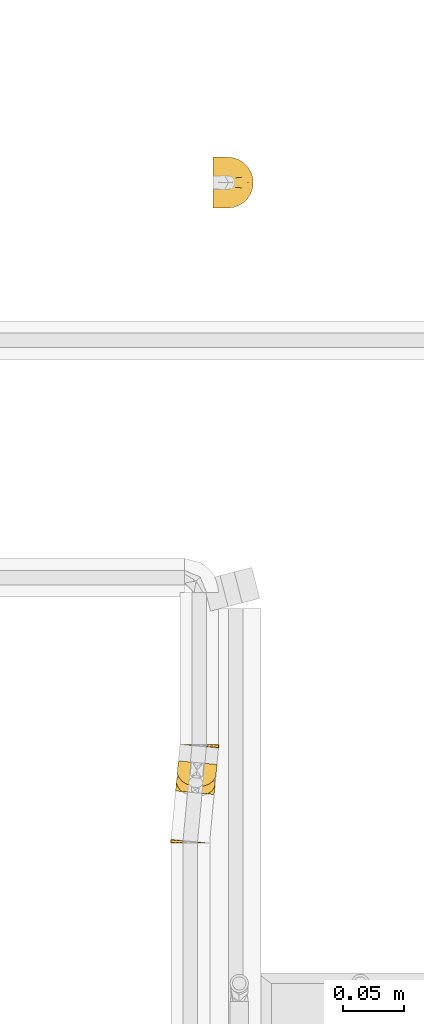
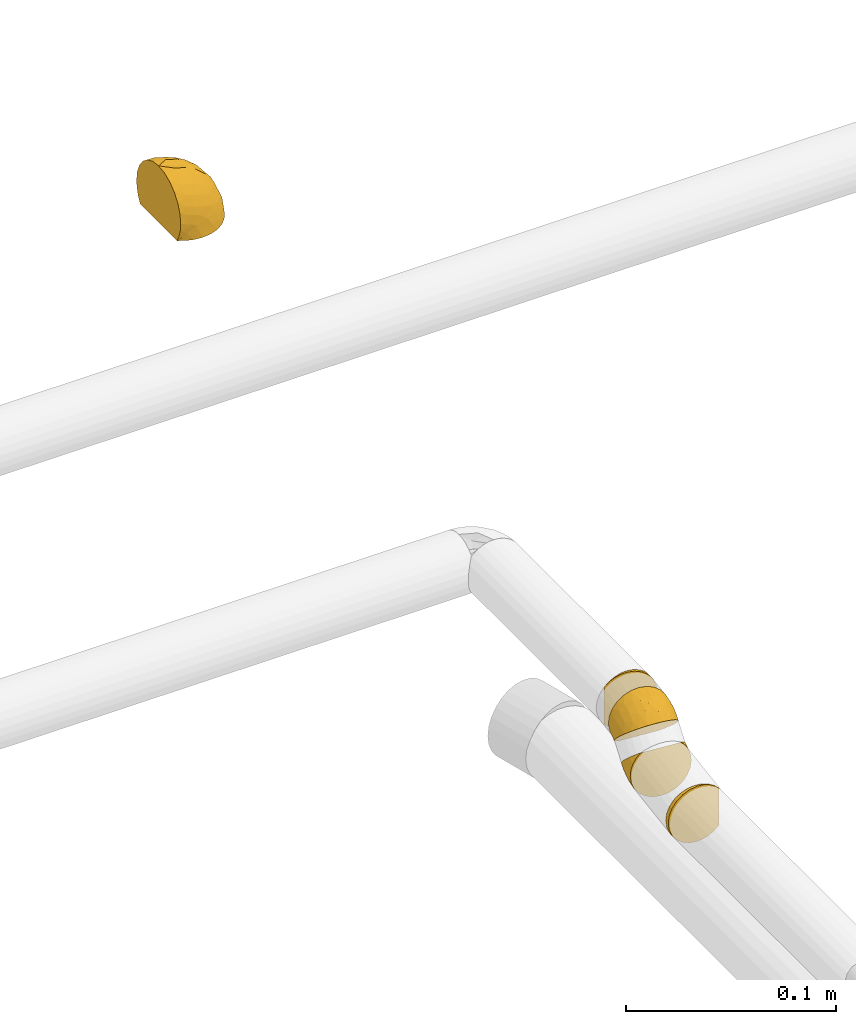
# One storey, part 19 of 108: 5 coverings.
"""IFC2X3 building model written with IfcOpenShell, lengths in millimetres."""

from ifc_helpers import new_model, entity, si_unit, converted_unit, derived_unit, direction, frame, origin_with_axes, place, context, subcontext, project, spatial, open_shell, surface_model, source, transform, mapped, element, save


model = new_model("IFC2X3")

# Units and contexts
model_context = context("Model", 3, precision=0.01, world=frame((0.0, 4.29681676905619e-09, 0.0)), true_north=direction((4.01073788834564e-13, 1.0)))
plan_context = context("Plan", 3, precision=0.01, world=frame((0.0, 4.29681676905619e-09, 0.0)), true_north=direction((4.01073788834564e-13, 1.0)))
body_context = subcontext(model_context, "Body", "Model", "MODEL_VIEW")
ifc_project = project(units=[converted_unit("PLANEANGLEUNIT", "DEGREE", entity("IfcPositiveLengthMeasure", 0.0174532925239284), si_unit("PLANEANGLEUNIT", "RADIAN"), dimensions=[0, 0, 0, 0, 0, 0, 0]), si_unit("AREAUNIT", "SQUARE_METRE"), si_unit("LENGTHUNIT", "METRE", prefix="MILLI"), si_unit("MASSUNIT", "GRAM", prefix="KILO"), si_unit("POWERUNIT", "WATT"), si_unit("PRESSUREUNIT", "PASCAL", prefix="KILO"), si_unit("FORCEUNIT", "NEWTON", prefix="KILO"), si_unit("ELECTRICVOLTAGEUNIT", "VOLT"), si_unit("ELECTRICCURRENTUNIT", "AMPERE"), si_unit("THERMODYNAMICTEMPERATUREUNIT", "DEGREE_CELSIUS"), si_unit("TIMEUNIT", "SECOND"), si_unit("VOLUMEUNIT", "CUBIC_METRE"), derived_unit("LINEARVELOCITYUNIT", [(si_unit("LENGTHUNIT", "METRE"), 1), (si_unit("TIMEUNIT", "SECOND"), -1)]), derived_unit("VOLUMETRICFLOWRATEUNIT", [(si_unit("VOLUMEUNIT", "CUBIC_METRE"), 1), (si_unit("TIMEUNIT", "SECOND"), -1)]), derived_unit("THERMALTRANSMITTANCEUNIT", [(si_unit("POWERUNIT", "WATT"), 1), (si_unit("THERMODYNAMICTEMPERATUREUNIT", "KELVIN"), -1), (si_unit("AREAUNIT", "SQUARE_METRE"), -1)]), derived_unit("SOUNDPRESSUREUNIT", [(si_unit("PRESSUREUNIT", "PASCAL"), 1)])], contexts=[model_context, plan_context])

# Site, building, storey
site_placement = place(None, frame((0.0, -4.29681676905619e-09, 0.0), z_axis=(0.0, 0.0, 1.0), x_axis=(1.0, 0.0, 0.0)))
site = spatial("IfcSite", under=ifc_project, at=site_placement, CompositionType="ELEMENT")
building_placement = place(site_placement, frame((0.0, 4.29681676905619e-09, 0.0), z_axis=(0.0, 0.0, 1.0), x_axis=(1.0, 0.0, 0.0)))
building = spatial("IfcBuilding", under=site, at=building_placement, Name="mc-building", CompositionType="ELEMENT")
storey_placement = place(building_placement, frame((0.0, 0.0, 210200.0), z_axis=(0.0, 0.0, 1.0), x_axis=(1.0, 0.0, 0.0)))
storey = spatial("IfcBuildingStorey", under=building, at=storey_placement, Name="Nivå F - 0,7 m", CompositionType="ELEMENT", Elevation=210200.0)

# Coverings
shared_shape_1 = source(origin_with_axes(), body_context, "Body", "SurfaceModel", [
    surface_model("IfcShellBasedSurfaceModel", [(-0.56127, 11.89357, -10.70247), (-0.56127, 9.40752, -12.94213), (-0.56127, 6.51001, -14.61574), (-0.56127, 3.32778, -15.65011), (-0.56127, 0.0, -16.0), (-0.56127, 3.32778, 15.65011), (-0.56127, -8.0, 13.85641), (-0.56127, 9.40752, 12.94213), (-0.56127, 11.89357, 10.70247), (-0.56127, 6.51001, 14.61574), (-0.56127, -4.1411, 15.45481), (-0.56127, 0.0, 16.0), (-0.56127, -4.1411, -15.45481), (-0.56127, -8.0, -13.85641), (-0.56127, -13.85641, -8.0), (-0.56127, -11.31371, -11.31371), (-0.56127, -15.45481, 4.1411), (-0.56127, -15.45481, -4.1411), (-0.56127, -13.85641, 8.0), (-0.56127, -11.31371, 11.31371), (-0.56127, -16.0, 0.0), (-0.31929, 9.41883, -12.94213), (-0.55134, 11.89404, -10.70247), (0.2482, 3.36564, 15.65011), (0.55882, 0.05239, -16.0), (0.2482, 3.36564, -15.65011), (-0.04883, 6.53398, -14.61574), (1.85219, -13.74352, -8.0), (-0.04883, 6.53398, 14.61574), (-0.55134, 11.89404, 10.70247), (-0.31929, 9.41883, 12.94213), (0.55882, 0.05239, 16.0), (0.94535, -4.07064, -15.45481), (1.30554, -7.91268, -13.85641), (1.85219, -13.74352, 8.0), (1.61485, -11.21193, -11.31371), (2.00138, -15.33495, -4.1411), (2.00138, -15.33495, 4.1411), (1.61485, -11.21193, 11.31371), (1.30554, -7.91268, 13.85641), (0.94535, -4.07064, 15.45481), (2.05227, -15.87776, 0.0), (-0.00061, 0.0131, -16.0), (0.74693, -15.96942, 0.0), (-0.00061, 0.0131, 16.0)], [open_shell([[[0, 1, 2]], [[2, 3, 4]], [[2, 4, 0]], [[5, 0, 6]], [[7, 8, 9]], [[0, 9, 8]], [[0, 5, 9]], [[5, 10, 11]], [[6, 0, 4]], [[12, 13, 14]], [[12, 14, 6]], [[14, 13, 15]], [[16, 14, 17]], [[6, 18, 19]], [[10, 5, 6]], [[14, 16, 18]], [[6, 14, 18]], [[20, 16, 17]], [[6, 4, 12]], [[21, 22, 23]], [[24, 25, 26]], [[21, 24, 26]], [[23, 27, 21]], [[28, 29, 30]], [[29, 28, 22]], [[28, 23, 22]], [[31, 27, 23]], [[32, 24, 21]], [[27, 33, 32]], [[27, 31, 34]], [[35, 33, 27]], [[36, 27, 37]], [[38, 34, 39]], [[39, 31, 40]], [[34, 37, 27]], [[39, 34, 31]], [[36, 37, 41]], [[27, 32, 21]], [[26, 3, 2]], [[4, 3, 42]], [[25, 42, 3]], [[2, 1, 21]], [[21, 26, 2]], [[24, 42, 25]], [[3, 26, 25]], [[22, 21, 1]], [[12, 4, 42]], [[15, 13, 35]], [[12, 33, 13]], [[17, 14, 27]], [[14, 15, 35]], [[20, 17, 43]], [[32, 12, 42]], [[27, 14, 35]], [[32, 33, 12]], [[35, 13, 33]], [[17, 36, 43]], [[17, 27, 36]], [[36, 41, 43]], [[32, 42, 24]], [[18, 38, 19]], [[19, 38, 6]], [[34, 18, 16]], [[11, 10, 44]], [[10, 40, 44]], [[6, 39, 10]], [[16, 20, 43]], [[34, 38, 18]], [[16, 37, 34]], [[41, 37, 43]], [[39, 6, 38]], [[44, 40, 31]], [[10, 39, 40]], [[16, 43, 37]], [[9, 5, 23]], [[28, 7, 9]], [[8, 7, 30]], [[11, 44, 5]], [[44, 31, 23]], [[30, 7, 28]], [[9, 23, 28]], [[5, 44, 23]]])]),
])
covering_1_placement = place(storey_placement, frame((339126.94674, 460968.75941, -735.809999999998), z_axis=(0.0, 0.0, 1.0), x_axis=(0.0933410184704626, 0.995634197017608, 0.0)))
element("IfcCovering", 1, at=covering_1_placement, inside=storey, Name="BI10T - Cellegummi 18-32 mm kalde rør", PredefinedType="INSULATION", context=body_context, shape_type="MappedRepresentation", body=[
    mapped(shared_shape_1, transform((0.0, 0.0, 0.0), scale=1.0)),
])
shared_shape_2 = source(origin_with_axes(), body_context, "Body", "SurfaceModel", [
    surface_model("IfcShellBasedSurfaceModel", [(-4.97056, 11.89357, -10.70247), (-4.97056, 9.40752, -12.94213), (-4.97056, 0.0, -16.0), (-4.97056, 6.51001, -14.61574), (-4.97056, 3.32778, -15.65011), (-4.97056, 0.0, 16.0), (-4.97056, 9.40752, 12.94213), (-4.97056, 11.89357, 10.70247), (-4.97056, 6.51001, 14.61574), (-4.97056, 3.32778, 15.65011), (-4.97056, -15.45481, -4.1411), (-4.97056, -4.1411, -15.45481), (-4.97056, -8.0, -13.85641), (-4.97056, -13.85641, -8.0), (-4.97056, -11.31371, -11.31371), (-4.97056, -13.85641, 8.0), (-4.97056, -8.0, 13.85641), (-4.97056, -11.31371, 11.31371), (-4.97056, -4.1411, 15.45481), (-4.97056, -16.0, 0.0), (-4.97056, -15.45481, 4.1411), (-3.1374, 10.16684, -12.94213), (-4.89531, 11.92474, -10.70247), (-4.89531, 11.92474, 10.70247), (3.51472, 3.51472, -16.0), (1.16163, 5.86781, -15.65011), (-1.08855, 8.11799, -14.61574), (-1.08855, 8.11799, 14.61574), (-3.1374, 10.16684, 12.94213), (1.16163, 5.86781, 15.65011), (3.51472, 3.51472, 16.0), (6.44292, 0.58652, -15.45481), (13.31268, -6.28324, -8.0), (9.17157, -2.14214, -13.85641), (14.44292, -7.41348, -4.1411), (11.51472, -4.48528, -11.31371), (13.31268, -6.28324, 8.0), (11.51472, -4.48528, 11.31371), (9.17157, -2.14214, 13.85641), (6.44292, 0.58652, 15.45481), (14.44292, -7.41348, 4.1411), (14.82843, -7.79899, 0.0), (-0.37836, 0.91345, -16.0), (3.21879, -14.48307, -2.97827), (1.96115, -13.8695, -6.12293), (8.42584, -12.25536, -3.0379), (0.31187, -9.08866, -12.69365), (-0.52437, -2.37827, -15.7066), (2.87541, -0.86951, -15.7022), (1.59788, -4.89072, -14.78207), (5.89953, -6.82755, -12.69365), (-2.54867, 0.48174, -16.0), (4.47929, -10.81396, -9.74018), (-0.68256, -12.3185, -9.74018), (9.19314, -8.22786, -9.74018), (8.79818, -10.97175, -6.12293), (0.68053, -14.87593, 0.0), (5.74457, -13.86863, 0.0), (5.30977, -3.25768, -14.66516), (-1.87699, -5.17679, -15.04205), (10.03767, -11.00007, 0.0), (1.56818, 2.21408, -16.0), (10.5388, -10.92885, 3.17594), (3.21879, -14.48307, 2.97827), (-0.68256, -12.3185, 9.74018), (1.96115, -13.8695, 6.12293), (4.47929, -10.81396, 9.74018), (0.31187, -9.08866, 12.69365), (9.19314, -8.22786, 9.74018), (1.59788, -4.89072, 14.78207), (-0.52437, -2.37827, 15.7066), (-1.87699, -5.17679, 15.04205), (5.89953, -6.82755, 12.69365), (5.30977, -3.25768, 14.66516), (2.87541, -0.86951, 15.7022), (8.79818, -10.97175, 6.12293), (-0.37836, 0.91345, 16.0), (-2.54867, 0.48174, 16.0), (1.56818, 2.21408, 16.0), (-4.31116, 11.27246, 11.50809)], [open_shell([[[0, 1, 2]], [[3, 4, 2]], [[3, 2, 1]], [[0, 2, 5]], [[6, 7, 8]], [[8, 5, 9]], [[5, 8, 7]], [[7, 0, 5]], [[2, 10, 5]], [[11, 12, 13]], [[13, 10, 11]], [[13, 12, 14]], [[10, 15, 5]], [[16, 15, 17]], [[15, 16, 18]], [[15, 19, 20]], [[18, 5, 15]], [[10, 19, 15]], [[2, 11, 10]], [[21, 22, 23]], [[24, 25, 26]], [[21, 24, 26]], [[24, 21, 23]], [[27, 23, 28]], [[29, 30, 27]], [[23, 27, 30]], [[30, 24, 23]], [[30, 31, 24]], [[32, 33, 31]], [[31, 34, 32]], [[35, 33, 32]], [[30, 36, 34]], [[37, 36, 38]], [[39, 38, 36]], [[40, 41, 36]], [[36, 30, 39]], [[36, 41, 34]], [[34, 31, 30]], [[25, 4, 3]], [[2, 4, 42]], [[25, 42, 4]], [[3, 1, 26]], [[21, 26, 1]], [[24, 42, 25]], [[3, 26, 25]], [[22, 21, 1]], [[43, 44, 45]], [[46, 14, 12]], [[47, 48, 49]], [[50, 46, 49]], [[47, 11, 51]], [[52, 53, 46]], [[43, 10, 44]], [[54, 55, 52]], [[13, 53, 44]], [[13, 44, 10]], [[35, 32, 54]], [[52, 55, 44]], [[42, 47, 51]], [[56, 43, 57]], [[50, 35, 54]], [[48, 58, 49]], [[46, 12, 59]], [[31, 48, 24]], [[52, 46, 50]], [[58, 50, 49]], [[32, 34, 55]], [[13, 14, 53]], [[43, 45, 57]], [[50, 33, 35]], [[10, 43, 56]], [[34, 60, 45]], [[45, 44, 55]], [[11, 47, 59]], [[34, 41, 60]], [[56, 19, 10]], [[11, 2, 51]], [[48, 47, 42]], [[47, 49, 59]], [[48, 42, 61]], [[31, 33, 58]], [[46, 59, 49]], [[12, 11, 59]], [[46, 53, 14]], [[44, 53, 52]], [[55, 54, 32]], [[50, 54, 52]], [[31, 58, 48]], [[50, 58, 33]], [[34, 45, 55]], [[57, 45, 60]], [[24, 48, 61]], [[62, 57, 60]], [[57, 63, 56]], [[15, 64, 17]], [[65, 66, 64]], [[67, 17, 64]], [[36, 37, 68]], [[69, 70, 71]], [[69, 67, 72]], [[67, 66, 72]], [[73, 39, 74]], [[71, 67, 69]], [[18, 71, 70]], [[75, 40, 36]], [[62, 41, 40]], [[66, 68, 72]], [[15, 20, 65]], [[16, 17, 67]], [[65, 75, 66]], [[37, 38, 72]], [[20, 56, 63]], [[74, 76, 70]], [[18, 70, 77]], [[74, 30, 78]], [[75, 65, 63]], [[73, 72, 38]], [[75, 36, 68]], [[75, 62, 40]], [[77, 70, 76]], [[20, 63, 65]], [[20, 19, 56]], [[62, 63, 57]], [[77, 5, 18]], [[69, 73, 74]], [[69, 74, 70]], [[30, 74, 39]], [[18, 16, 71]], [[67, 71, 16]], [[65, 64, 15]], [[67, 64, 66]], [[72, 68, 37]], [[75, 68, 66]], [[72, 73, 69]], [[39, 73, 38]], [[63, 62, 75]], [[41, 62, 60]], [[78, 76, 74]], [[8, 9, 27]], [[28, 6, 8]], [[7, 6, 79]], [[5, 76, 9]], [[76, 30, 29]], [[28, 8, 27]], [[9, 29, 27]], [[9, 76, 29]], [[6, 28, 79]]])]),
])
covering_2_placement = place(storey_placement, frame((339125.13518, 460949.43613, -735.809999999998), z_axis=(0.995634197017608, -0.0933410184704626, 0.0), x_axis=(-0.0933410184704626, -0.995634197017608, 0.0)))
element("IfcCovering", 2, at=covering_2_placement, inside=storey, Name="BI10T - Cellegummi 18-32 mm kalde rør", PredefinedType="INSULATION", context=body_context, shape_type="MappedRepresentation", body=[
    mapped(shared_shape_2, transform((0.0, 0.0, 0.0), scale=1.0)),
])
shared_shape_3 = source(origin_with_axes(), body_context, "Body", "SurfaceModel", [
    surface_model("IfcShellBasedSurfaceModel", [(-4.97056, 9.40752, 12.94213), (-4.97056, 11.89357, 10.70247), (-4.97056, 6.51001, 14.61574), (-4.97056, 11.89357, -10.70247), (-4.97056, 0.0, 16.0), (-4.97056, -4.1411, -15.45481), (-4.97056, -8.0, -13.85641), (-4.97056, -13.85641, -8.0), (-4.97056, -15.45481, -4.1411), (-4.97056, -11.31371, -11.31371), (-1.08855, 8.11799, 14.61574), (-4.89531, 11.92474, 10.70247), (-3.1374, 10.16684, 12.94213), (13.31268, -6.28324, -8.0), (9.17157, -2.14214, -13.85641), (6.44292, 0.58652, -15.45481), (14.44292, -7.41348, -4.1411), (11.51472, -4.48528, -11.31371), (1.16163, 5.86781, -15.65011), (-4.97056, 3.32778, -15.65011), (-4.97056, 6.51001, -14.61574), (-4.97056, 0.0, -16.0), (-0.37836, 0.91345, -16.0), (-4.97056, 9.40752, -12.94213), (-1.08855, 8.11799, -14.61574), (-3.1374, 10.16684, -12.94213), (3.51472, 3.51472, -16.0), (-4.89531, 11.92474, -10.70247), (3.21879, -14.48307, -2.97827), (1.96115, -13.8695, -6.12293), (8.42584, -12.25536, -3.0379), (0.31187, -9.08866, -12.69365), (-0.52437, -2.37827, -15.7066), (2.87541, -0.86951, -15.7022), (1.59788, -4.89072, -14.78207), (5.89953, -6.82755, -12.69365), (-2.54867, 0.48174, -16.0), (4.47929, -10.81396, -9.74018), (-0.68256, -12.3185, -9.74018), (9.19314, -8.22786, -9.74018), (8.79818, -10.97175, -6.12293), (0.68053, -14.87593, 0.0), (5.74457, -13.86863, 0.0), (5.30977, -3.25768, -14.66516), (-1.87699, -5.17679, -15.04205), (10.03767, -11.00007, 0.0), (14.82843, -7.79899, 0.0), (-4.97056, -16.0, 0.0), (1.56818, 2.21408, -16.0), (10.5388, -10.92885, 3.17594), (3.21879, -14.48307, 2.97827), (-4.97056, -13.85641, 8.0), (-0.68256, -12.3185, 9.74018), (-4.97056, -11.31371, 11.31371), (1.96115, -13.8695, 6.12293), (4.47929, -10.81396, 9.74018), (0.31187, -9.08866, 12.69365), (13.31268, -6.28324, 8.0), (11.51472, -4.48528, 11.31371), (9.19314, -8.22786, 9.74018), (1.59788, -4.89072, 14.78207), (-0.52437, -2.37827, 15.7066), (-1.87699, -5.17679, 15.04205), (5.89953, -6.82755, 12.69365), (5.30977, -3.25768, 14.66516), (6.44292, 0.58652, 15.45481), (2.87541, -0.86951, 15.7022), (-4.97056, -4.1411, 15.45481), (8.79818, -10.97175, 6.12293), (14.44292, -7.41348, 4.1411), (-4.97056, -15.45481, 4.1411), (-4.97056, -8.0, 13.85641), (9.17157, -2.14214, 13.85641), (-0.37836, 0.91345, 16.0), (-2.54867, 0.48174, 16.0), (3.51472, 3.51472, 16.0), (1.56818, 2.21408, 16.0), (-4.97056, 3.32778, 15.65011), (-4.31116, 11.27246, 11.50809), (1.16163, 5.86781, 15.65011)], [open_shell([[[0, 1, 2]], [[1, 3, 4]], [[5, 6, 7]], [[7, 8, 5]], [[7, 6, 9]], [[10, 11, 12]], [[13, 14, 15]], [[15, 16, 13]], [[17, 14, 13]], [[18, 19, 20]], [[21, 19, 22]], [[18, 22, 19]], [[20, 23, 24]], [[25, 24, 23]], [[26, 22, 18]], [[20, 24, 18]], [[27, 25, 23]], [[28, 29, 30]], [[31, 9, 6]], [[32, 33, 34]], [[35, 31, 34]], [[32, 5, 36]], [[37, 38, 31]], [[28, 8, 29]], [[39, 40, 37]], [[7, 38, 29]], [[7, 29, 8]], [[17, 13, 39]], [[37, 40, 29]], [[22, 32, 36]], [[41, 28, 42]], [[35, 17, 39]], [[33, 43, 34]], [[31, 6, 44]], [[15, 33, 26]], [[37, 31, 35]], [[43, 35, 34]], [[13, 16, 40]], [[7, 9, 38]], [[28, 30, 42]], [[35, 14, 17]], [[8, 28, 41]], [[16, 45, 30]], [[30, 29, 40]], [[5, 32, 44]], [[16, 46, 45]], [[41, 47, 8]], [[5, 21, 36]], [[33, 32, 22]], [[32, 34, 44]], [[33, 22, 48]], [[15, 14, 43]], [[31, 44, 34]], [[6, 5, 44]], [[31, 38, 9]], [[29, 38, 37]], [[40, 39, 13]], [[35, 39, 37]], [[15, 43, 33]], [[35, 43, 14]], [[16, 30, 40]], [[42, 30, 45]], [[26, 33, 48]], [[49, 42, 45]], [[42, 50, 41]], [[51, 52, 53]], [[54, 55, 52]], [[56, 53, 52]], [[57, 58, 59]], [[60, 61, 62]], [[60, 56, 63]], [[56, 55, 63]], [[64, 65, 66]], [[62, 56, 60]], [[67, 62, 61]], [[68, 69, 57]], [[49, 46, 69]], [[55, 59, 63]], [[51, 70, 54]], [[71, 53, 56]], [[54, 68, 55]], [[58, 72, 63]], [[70, 41, 50]], [[66, 73, 61]], [[67, 61, 74]], [[66, 75, 76]], [[68, 54, 50]], [[64, 63, 72]], [[68, 57, 59]], [[68, 49, 69]], [[74, 61, 73]], [[70, 50, 54]], [[70, 47, 41]], [[49, 50, 42]], [[74, 4, 67]], [[60, 64, 66]], [[60, 66, 61]], [[75, 66, 65]], [[67, 71, 62]], [[56, 62, 71]], [[54, 52, 51]], [[56, 52, 55]], [[63, 59, 58]], [[68, 59, 55]], [[63, 64, 60]], [[65, 64, 72]], [[50, 49, 68]], [[46, 49, 45]], [[76, 73, 66]], [[2, 77, 10]], [[12, 0, 2]], [[1, 0, 78]], [[4, 73, 77]], [[73, 75, 79]], [[12, 2, 10]], [[77, 79, 10]], [[77, 73, 79]], [[0, 12, 78]], [[67, 4, 3]], [[20, 51, 23]], [[53, 3, 23]], [[70, 20, 19]], [[1, 77, 2]], [[77, 1, 4]], [[19, 21, 47]], [[5, 8, 47]], [[53, 71, 3]], [[67, 3, 71]], [[70, 51, 20]], [[53, 23, 51]], [[47, 70, 19]], [[21, 5, 47]], [[27, 75, 65]], [[25, 57, 24]], [[25, 27, 58]], [[18, 24, 69]], [[10, 79, 11]], [[75, 11, 79]], [[75, 27, 11]], [[46, 26, 18]], [[46, 16, 15]], [[27, 72, 58]], [[72, 27, 65]], [[24, 57, 69]], [[57, 25, 58]], [[18, 69, 46]], [[46, 15, 26]]])]),
])
covering_3_placement = place(storey_placement, frame((339123.73851, 460934.53834, -750.773129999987), z_axis=(-0.995634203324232, 0.09334095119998, -6.7565451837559e-08), x_axis=(-0.0660019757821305, -0.704019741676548, -0.707106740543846)))
element("IfcCovering", 3, at=covering_3_placement, inside=storey, Name="BI10T - Cellegummi 18-32 mm kalde rør", PredefinedType="INSULATION", context=body_context, shape_type="MappedRepresentation", body=[
    mapped(shared_shape_3, transform((0.0, 0.0, 0.0), scale=1.0)),
])
shared_shape_4 = source(origin_with_axes(), body_context, "Body", "SurfaceModel", [
    surface_model("IfcShellBasedSurfaceModel", [(-0.56127, -4.1411, -15.45481), (-0.56127, -8.0, -13.85641), (-0.56127, -13.85641, -8.0), (-0.56127, -8.0, 13.85641), (-0.56127, -11.31371, -11.31371), (-0.56127, -15.45481, 4.1411), (-0.56127, -15.45481, -4.1411), (-0.56127, -13.85641, 8.0), (-0.56127, -11.31371, 11.31371), (-0.56127, -16.0, 0.0), (-0.56127, 0.0, -16.0), (1.85219, -13.74352, -8.0), (1.30554, -7.91268, -13.85641), (0.94535, -4.07064, -15.45481), (1.61485, -11.21193, -11.31371), (2.00138, -15.33495, -4.1411), (2.00138, -15.33495, 4.1411), (1.61485, -11.21193, 11.31371), (1.85219, -13.74352, 8.0), (1.30554, -7.91268, 13.85641), (2.05227, -15.87776, 0.0), (-0.04883, 6.53398, -14.61574), (-0.56127, 3.32778, -15.65011), (-0.56127, 6.51001, -14.61574), (-0.00061, 0.0131, -16.0), (0.2482, 3.36564, -15.65011), (-0.56127, 9.40752, -12.94213), (-0.31929, 9.41883, -12.94213), (0.55882, 0.05239, -16.0), (-0.55134, 11.89404, -10.70247), (0.74693, -15.96942, 0.0), (-0.56127, 0.0, 16.0), (-0.56127, -4.1411, 15.45481), (-0.00061, 0.0131, 16.0), (0.94535, -4.07064, 15.45481), (0.55882, 0.05239, 16.0), (-0.56127, 6.51001, 14.61574), (-0.56127, 3.32778, 15.65011), (0.2482, 3.36564, 15.65011), (-0.04883, 6.53398, 14.61574), (-0.56127, 9.40752, 12.94213), (-0.56127, 11.89357, 10.70247), (-0.31929, 9.41883, 12.94213), (-0.56127, 11.89357, -10.70247), (-0.55134, 11.89404, 10.70247)], [open_shell([[[0, 1, 2]], [[0, 2, 3]], [[2, 1, 4]], [[5, 2, 6]], [[3, 7, 8]], [[2, 5, 7]], [[3, 2, 7]], [[9, 5, 6]], [[3, 10, 0]], [[11, 12, 13]], [[14, 12, 11]], [[15, 11, 16]], [[17, 18, 19]], [[18, 16, 11]], [[15, 16, 20]], [[21, 22, 23]], [[10, 22, 24]], [[25, 24, 22]], [[23, 26, 27]], [[27, 21, 23]], [[28, 24, 25]], [[22, 21, 25]], [[29, 27, 26]], [[0, 10, 24]], [[4, 1, 14]], [[0, 12, 1]], [[6, 2, 11]], [[2, 4, 14]], [[9, 6, 30]], [[13, 0, 24]], [[11, 2, 14]], [[13, 12, 0]], [[14, 1, 12]], [[6, 15, 30]], [[6, 11, 15]], [[15, 20, 30]], [[13, 24, 28]], [[7, 17, 8]], [[8, 17, 3]], [[18, 7, 5]], [[31, 32, 33]], [[32, 34, 33]], [[3, 19, 32]], [[5, 9, 30]], [[18, 17, 7]], [[5, 16, 18]], [[20, 16, 30]], [[19, 3, 17]], [[33, 34, 35]], [[32, 19, 34]], [[5, 30, 16]], [[36, 37, 38]], [[39, 40, 36]], [[41, 40, 42]], [[31, 33, 37]], [[33, 35, 38]], [[42, 40, 39]], [[36, 38, 39]], [[37, 33, 38]], [[43, 26, 22]], [[43, 22, 32]], [[22, 26, 23]], [[32, 41, 43]], [[40, 41, 31]], [[40, 37, 36]], [[37, 40, 31]], [[31, 41, 32]], [[3, 22, 10]], [[32, 22, 3]], [[25, 27, 29]], [[34, 25, 29]], [[21, 27, 25]], [[34, 29, 44]], [[35, 44, 42]], [[39, 38, 42]], [[35, 42, 38]], [[34, 44, 35]], [[25, 19, 28]], [[11, 28, 18]], [[19, 25, 34]], [[19, 18, 28]], [[11, 13, 28]]])]),
])
covering_4_placement = place(storey_placement, frame((339119.44674, 460888.75941, -750.773129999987), z_axis=(0.0, 0.0, 1.0), x_axis=(-0.0933410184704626, -0.995634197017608, 0.0)))
element("IfcCovering", 4, at=covering_4_placement, inside=storey, Name="BI10T - Cellegummi 18-32 mm kalde rør", PredefinedType="INSULATION", context=body_context, shape_type="MappedRepresentation", body=[
    mapped(shared_shape_4, transform((0.0, 0.0, 0.0), scale=1.0)),
])
shared_shape_5 = source(origin_with_axes(), body_context, "Body", "SurfaceModel", [
    surface_model("IfcShellBasedSurfaceModel", [(9.11487, 12.0, 18.91875), (13.09649, 12.0, 16.41591), (16.4209, 12.0, 13.09023), (18.92181, 12.0, 9.10852), (20.4741, 12.0, 4.67027), (-11.82707, 12.0, -17.35282), (0.0, 12.0, 21.0), (-8.15142, 12.0, 19.35341), (-4.15564, 12.0, 20.58472), (-11.82707, 12.0, 17.35282), (4.67527, 12.0, 20.47295), (20.47295, 12.0, -4.67527), (16.41591, 12.0, -13.09649), (18.91875, 12.0, -9.11487), (13.09023, 12.0, -16.4209), (-8.15927, 12.0, -19.3501), (-4.164, 12.0, -20.58303), (9.10852, 12.0, -18.92181), (4.67027, 12.0, -20.4741), (0.0, 12.0, -21.0), (21.0, 12.0, 0.0), (-12.0, 11.82707, -17.35282), (-12.0, 8.15516, -19.35183), (-12.0, 4.16002, -20.58383), (-12.0, 4.16002, 20.58383), (-12.0, 0.0, -21.0), (-12.0, 11.82707, 17.35282), (-12.0, 8.15516, 19.35183), (-12.0, -5.4352, 20.28444), (-12.0, 0.0, 21.0), (-12.0, -5.4352, -20.28444), (-12.0, -10.5, -18.18653), (-12.0, -20.28444, -5.4352), (-12.0, -18.18653, -10.5), (-12.0, -14.84924, -14.84924), (-12.0, -20.28444, 5.4352), (-12.0, -14.84924, 14.84924), (-12.0, -10.5, 18.18653), (-12.0, -18.18653, 10.5), (-12.0, -21.0, 0.0), (-11.87772, 11.87772, 17.35282), (-11.87772, 11.87772, -17.35282), (-7.89171, 7.88933, -20.0675), (-3.51472, 3.51472, -21.0), (-10.15533, 9.77459, -18.92136), (-3.8307, -18.32021, -8.03635), (-9.61131, 0.98943, -21.0), (-7.58578, -7.54405, -19.40147), (-7.13847, -3.34036, -20.59741), (-2.74824, -5.77246, -19.40147), (-5.63604, 2.63604, -21.0), (-4.24759, -2.23144, -20.57449), (-7.75736, 1.75736, -21.0), (18.81397, 4.05984, -6.93873), (0.47486, -18.11697, -4.08744), (4.5, -16.57884, 0.0), (-3.75, -18.78942, 0.0), (0.91689, -9.62382, -16.34247), (3.13638, -3.61219, -18.60195), (7.13838, -6.8269, -14.85207), (-5.55228, -11.93059, -16.66042), (-0.98943, 9.61131, -21.0), (-6.95843, -16.21351, -12.78399), (-0.92277, -14.43321, -12.78399), (6.3342, 7.27614, -19.82256), (11.698, -0.6152, -14.85191), (13.99734, 5.30163, -14.85207), (15.27661, 0.05078, -11.17596), (9.22253, 2.70301, -17.78315), (10.74735, 7.59683, -17.78315), (11.18424, -10.81942, -4.4156), (16.57884, -4.5, 0.0), (10.53942, -10.53942, 0.0), (3.22772, 2.4981, -20.13972), (-1.24147, -1.1093, -20.40614), (19.1331, 5.03263, 0.0), (15.41811, -4.66782, -6.12509), (17.23647, 6.34087, -11.17596), (-1.97886, 7.22262, -21.0), (6.15597, -11.13892, -11.7402), (1.82152, -16.33244, -7.73397), (-5.84542, -20.03708, -3.96182), (11.3585, -7.00066, -10.63054), (7.53331, -2.10619, -17.16765), (5.99046, -15.25154, -3.79473), (7.00824, -13.28349, -7.45614), (-3.83329, -18.3209, 8.03635), (-5.8454, -20.03708, 3.96183), (1.82049, -16.33215, 7.73577), (-0.92948, -14.43602, 12.78399), (-6.9624, -16.21422, 12.78399), (7.53783, -2.11376, 17.16194), (3.22701, 2.49143, 20.13886), (3.14009, -3.61483, 18.5996), (10.75321, 7.59353, 17.77914), (14.00236, 5.29841, 14.84641), (-1.23981, -1.11133, 20.40551), (-4.4662, -1.73392, 20.67779), (-2.74824, -5.77246, 19.40147), (11.70249, -0.61813, 14.84657), (9.22667, 2.69658, 17.77914), (-5.55432, -11.93114, 16.66042), (6.33931, 7.27295, 19.82055), (15.27818, 0.04438, 11.16959), (17.23984, 6.33717, 11.16959), (-7.58578, -7.54405, 19.40147), (-1.97886, 7.22262, 21.0), (0.91405, -9.62823, 16.34059), (15.42322, -4.66242, 6.11995), (18.81558, 4.05799, 6.93298), (-9.61131, 0.98943, 21.0), (11.35715, -7.00961, 10.62269), (-7.13847, -3.34036, 20.59741), (-7.75736, 1.75736, 21.0), (-0.98943, 9.61131, 21.0), (-5.63604, 2.63604, 21.0), (0.47481, -18.11686, 4.08802), (7.00849, -13.28236, 7.45813), (5.99184, -15.25046, 3.79551), (11.18709, -10.816, 4.41732), (6.16217, -11.13845, 11.73507), (-3.51472, 3.51472, 21.0), (7.13524, -6.83817, 14.84641), (-7.89171, 7.88933, 20.0675), (-6.33877, 5.17029, 20.76558)], [open_shell([[[0, 1, 2]], [[2, 3, 4]], [[0, 2, 5]], [[0, 5, 6]], [[7, 8, 5]], [[6, 5, 8]], [[9, 7, 5]], [[0, 6, 10]], [[11, 2, 4]], [[2, 11, 5]], [[11, 12, 5]], [[12, 11, 13]], [[14, 5, 12]], [[15, 5, 16]], [[17, 5, 14]], [[18, 5, 17]], [[19, 16, 5]], [[19, 5, 18]], [[11, 4, 20]], [[21, 22, 23]], [[21, 23, 24]], [[24, 23, 25]], [[26, 21, 27]], [[24, 28, 29]], [[24, 27, 21]], [[28, 24, 25]], [[25, 30, 28]], [[30, 31, 32]], [[33, 32, 31]], [[33, 31, 34]], [[30, 32, 35]], [[28, 36, 37]], [[36, 35, 38]], [[35, 36, 28]], [[32, 39, 35]], [[28, 30, 35]], [[21, 26, 40]], [[41, 21, 40]], [[9, 5, 40]], [[41, 40, 5]], [[42, 23, 22]], [[25, 23, 43]], [[43, 23, 42]], [[42, 22, 44]], [[21, 41, 44]], [[5, 15, 44]], [[19, 43, 16]], [[44, 41, 5]], [[21, 44, 22]], [[15, 16, 42]], [[15, 42, 44]], [[43, 42, 16]], [[33, 45, 32]], [[30, 25, 46]], [[47, 31, 30]], [[47, 48, 49]], [[50, 51, 52]], [[13, 11, 53]], [[54, 55, 56]], [[57, 58, 59]], [[31, 60, 34]], [[18, 61, 19]], [[34, 62, 33]], [[33, 62, 45]], [[60, 63, 62]], [[17, 64, 18]], [[61, 18, 64]], [[65, 66, 67]], [[66, 14, 12]], [[68, 69, 66]], [[70, 71, 72]], [[17, 69, 64]], [[73, 58, 74]], [[11, 20, 75]], [[68, 66, 65]], [[67, 53, 76]], [[12, 13, 77]], [[63, 60, 57]], [[53, 71, 76]], [[77, 66, 12]], [[53, 77, 13]], [[67, 77, 53]], [[73, 78, 64]], [[69, 17, 14]], [[11, 75, 53]], [[73, 64, 68]], [[71, 53, 75]], [[47, 60, 31]], [[57, 59, 79]], [[63, 79, 80]], [[45, 54, 81]], [[59, 82, 79]], [[82, 67, 76]], [[65, 83, 68]], [[43, 78, 73]], [[72, 84, 70]], [[82, 59, 65]], [[54, 84, 55]], [[32, 81, 39]], [[66, 77, 67]], [[66, 69, 14]], [[64, 69, 68]], [[46, 48, 30]], [[60, 47, 49]], [[60, 49, 57]], [[58, 57, 49]], [[49, 48, 51]], [[83, 73, 68]], [[70, 82, 76]], [[84, 72, 55]], [[79, 82, 85]], [[48, 46, 52]], [[74, 50, 43]], [[30, 48, 47]], [[74, 49, 51]], [[73, 74, 43]], [[49, 74, 58]], [[81, 54, 56]], [[80, 54, 45]], [[39, 81, 56]], [[45, 81, 32]], [[82, 65, 67]], [[83, 59, 58]], [[59, 83, 65]], [[73, 83, 58]], [[80, 79, 85]], [[57, 79, 63]], [[60, 62, 34]], [[45, 62, 63]], [[63, 80, 45]], [[84, 80, 85]], [[80, 84, 54]], [[84, 85, 70]], [[82, 70, 85]], [[71, 70, 76]], [[64, 78, 61]], [[52, 51, 48]], [[50, 74, 51]], [[38, 35, 86]], [[39, 56, 87]], [[86, 88, 89]], [[86, 89, 90]], [[91, 92, 93]], [[94, 95, 1]], [[96, 97, 98]], [[99, 95, 100]], [[36, 101, 37]], [[100, 102, 92]], [[95, 103, 104]], [[105, 28, 37]], [[92, 102, 106]], [[89, 107, 101]], [[108, 71, 109]], [[28, 110, 29]], [[95, 2, 1]], [[75, 109, 71]], [[111, 108, 103]], [[109, 4, 3]], [[75, 20, 4]], [[36, 90, 101]], [[0, 94, 1]], [[112, 113, 110]], [[99, 103, 95]], [[36, 38, 90]], [[102, 0, 10]], [[93, 98, 107]], [[104, 109, 3]], [[94, 102, 100]], [[10, 114, 102]], [[3, 2, 104]], [[109, 103, 108]], [[113, 97, 115]], [[75, 4, 109]], [[56, 55, 116]], [[116, 88, 86]], [[117, 118, 119]], [[120, 117, 111]], [[89, 120, 107]], [[105, 101, 98]], [[106, 121, 92]], [[96, 115, 97]], [[103, 99, 111]], [[72, 119, 118]], [[56, 116, 87]], [[95, 104, 2]], [[109, 104, 103]], [[102, 94, 0]], [[95, 94, 100]], [[101, 105, 37]], [[112, 28, 105]], [[93, 107, 122]], [[108, 119, 71]], [[98, 101, 107]], [[122, 99, 91]], [[96, 92, 121]], [[120, 111, 122]], [[119, 111, 117]], [[96, 98, 93]], [[28, 112, 110]], [[98, 112, 105]], [[115, 96, 121]], [[112, 97, 113]], [[92, 96, 93]], [[118, 116, 55]], [[87, 86, 35]], [[86, 87, 116]], [[39, 87, 35]], [[91, 99, 100]], [[111, 99, 122]], [[92, 91, 100]], [[122, 91, 93]], [[107, 120, 122]], [[88, 120, 89]], [[86, 90, 38]], [[101, 90, 89]], [[72, 118, 55]], [[88, 118, 117]], [[71, 119, 72]], [[111, 119, 108]], [[118, 88, 116]], [[88, 117, 120]], [[114, 10, 6]], [[114, 106, 102]], [[98, 97, 112]], [[123, 27, 24]], [[26, 27, 40]], [[40, 27, 123]], [[123, 24, 124]], [[29, 121, 124]], [[6, 8, 124]], [[9, 40, 7]], [[124, 121, 6]], [[29, 124, 24]], [[8, 7, 123]], [[8, 123, 124]], [[40, 123, 7]]])]),
])
covering_5_placement = place(storey_placement, frame((339150.45588, 461433.25941, -733.073130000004), z_axis=(0.0, 1.0, 0.0), x_axis=(1.0, 0.0, 0.0)))
element("IfcCovering", 5, at=covering_5_placement, inside=storey, Name="BI10T - Cellegummi 18-32 mm kalde rør", PredefinedType="INSULATION", context=body_context, shape_type="MappedRepresentation", body=[
    mapped(shared_shape_5, transform((0.0, 0.0, 0.0), scale=1.0)),
])

save(model, "model.ifc")
